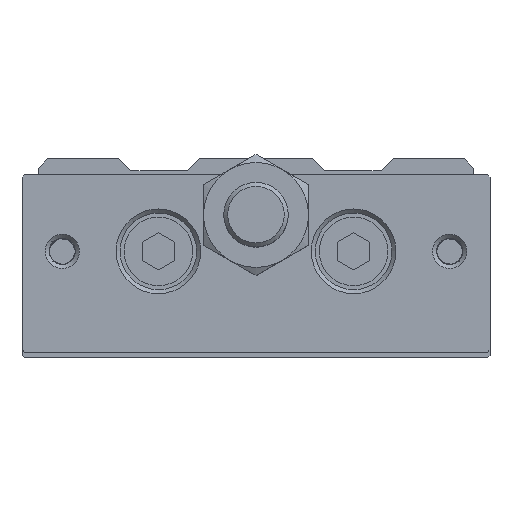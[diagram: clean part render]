
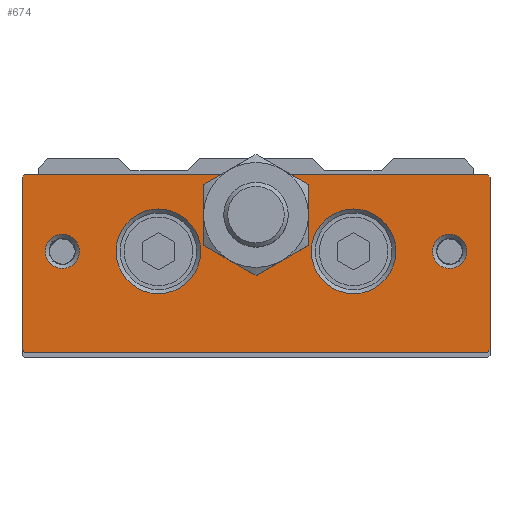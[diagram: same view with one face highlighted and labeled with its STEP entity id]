
A CAD part, top view. The second image highlights one B-rep face of the part: STEP entity #674.
In plain terms, the highlighted planar face has unit normal (0, 0, 1).
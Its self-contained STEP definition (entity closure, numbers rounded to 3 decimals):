
#455=CARTESIAN_POINT('',(-28.7,-13.,218.5));
#456=VERTEX_POINT('',#455);
#463=CARTESIAN_POINT('',(-29.,-12.7,218.5));
#464=VERTEX_POINT('',#463);
#465=CARTESIAN_POINT('',(-28.7,-13.,218.5));
#466=DIRECTION('',(-0.707,0.707,0.0));
#467=VECTOR('',#466,0.424);
#468=LINE('',#465,#467);
#469=EDGE_CURVE('',#456,#464,#468,.T.);
#486=CARTESIAN_POINT('',(-29.,8.7,218.5));
#487=VERTEX_POINT('',#486);
#488=CARTESIAN_POINT('',(-29.,8.7,218.5));
#489=DIRECTION('',(0.0,-1.0,0.0));
#490=VECTOR('',#489,21.4);
#491=LINE('',#488,#490);
#492=EDGE_CURVE('',#487,#464,#491,.T.);
#522=CARTESIAN_POINT('',(0.0,-13.,218.5));
#523=DIRECTION('',(0.0,0.0,1.0));
#524=DIRECTION('',(1.0,0.0,0.0));
#525=AXIS2_PLACEMENT_3D('',#522,#523,#524);
#526=PLANE('',#525);
#527=ORIENTED_EDGE('',*,*,#469,.F.);
#528=CARTESIAN_POINT('',(28.7,-13.,218.5));
#529=VERTEX_POINT('',#528);
#530=CARTESIAN_POINT('',(-28.7,-13.,218.5));
#531=DIRECTION('',(1.0,0.0,0.0));
#532=VECTOR('',#531,57.4);
#533=LINE('',#530,#532);
#534=EDGE_CURVE('',#456,#529,#533,.T.);
#535=ORIENTED_EDGE('',*,*,#534,.T.);
#536=CARTESIAN_POINT('',(29.,-12.7,218.5));
#537=VERTEX_POINT('',#536);
#538=CARTESIAN_POINT('',(29.,-12.7,218.5));
#539=DIRECTION('',(-0.707,-0.707,0.0));
#540=VECTOR('',#539,0.424);
#541=LINE('',#538,#540);
#542=EDGE_CURVE('',#537,#529,#541,.T.);
#543=ORIENTED_EDGE('',*,*,#542,.F.);
#544=CARTESIAN_POINT('',(29.,8.7,218.5));
#545=VERTEX_POINT('',#544);
#546=CARTESIAN_POINT('',(29.,-12.7,218.5));
#547=DIRECTION('',(0.0,1.0,0.0));
#548=VECTOR('',#547,21.4);
#549=LINE('',#546,#548);
#550=EDGE_CURVE('',#537,#545,#549,.T.);
#551=ORIENTED_EDGE('',*,*,#550,.T.);
#552=CARTESIAN_POINT('',(28.7,9.,218.5));
#553=VERTEX_POINT('',#552);
#554=CARTESIAN_POINT('',(28.7,9.,218.5));
#555=DIRECTION('',(0.707,-0.707,0.0));
#556=VECTOR('',#555,0.424);
#557=LINE('',#554,#556);
#558=EDGE_CURVE('',#553,#545,#557,.T.);
#559=ORIENTED_EDGE('',*,*,#558,.F.);
#560=CARTESIAN_POINT('',(4.153,9.,218.5));
#561=VERTEX_POINT('',#560);
#562=CARTESIAN_POINT('',(28.7,9.,218.5));
#563=DIRECTION('',(-1.0,0.0,0.0));
#564=VECTOR('',#563,24.547);
#565=LINE('',#562,#564);
#566=EDGE_CURVE('',#553,#561,#565,.T.);
#567=ORIENTED_EDGE('',*,*,#566,.T.);
#568=CARTESIAN_POINT('',(6.5,4.,218.5));
#569=VERTEX_POINT('',#568);
#570=CARTESIAN_POINT('',(0.0,4.,218.5));
#571=DIRECTION('',(0.0,0.0,1.0));
#572=DIRECTION('',(0.0,1.0,0.0));
#573=AXIS2_PLACEMENT_3D('',#570,#571,#572);
#574=CIRCLE('',#573,6.5);
#575=EDGE_CURVE('',#569,#561,#574,.T.);
#576=ORIENTED_EDGE('',*,*,#575,.F.);
#577=CARTESIAN_POINT('',(3.25,-1.629,218.5));
#578=VERTEX_POINT('',#577);
#579=CARTESIAN_POINT('',(0.0,4.,218.5));
#580=DIRECTION('',(0.0,0.0,1.0));
#581=DIRECTION('',(0.0,1.0,0.0));
#582=AXIS2_PLACEMENT_3D('',#579,#580,#581);
#583=CIRCLE('',#582,6.5);
#584=EDGE_CURVE('',#578,#569,#583,.T.);
#585=ORIENTED_EDGE('',*,*,#584,.F.);
#586=CARTESIAN_POINT('',(-3.25,-1.629,218.5));
#587=VERTEX_POINT('',#586);
#588=CARTESIAN_POINT('',(0.0,4.,218.5));
#589=DIRECTION('',(0.0,0.0,1.0));
#590=DIRECTION('',(0.0,1.0,0.0));
#591=AXIS2_PLACEMENT_3D('',#588,#589,#590);
#592=CIRCLE('',#591,6.5);
#593=EDGE_CURVE('',#587,#578,#592,.T.);
#594=ORIENTED_EDGE('',*,*,#593,.F.);
#595=CARTESIAN_POINT('',(-6.5,4.,218.5));
#596=VERTEX_POINT('',#595);
#597=CARTESIAN_POINT('',(0.0,4.,218.5));
#598=DIRECTION('',(0.0,0.0,1.0));
#599=DIRECTION('',(0.0,1.0,0.0));
#600=AXIS2_PLACEMENT_3D('',#597,#598,#599);
#601=CIRCLE('',#600,6.5);
#602=EDGE_CURVE('',#596,#587,#601,.T.);
#603=ORIENTED_EDGE('',*,*,#602,.F.);
#604=CARTESIAN_POINT('',(-4.153,9.,218.5));
#605=VERTEX_POINT('',#604);
#606=CARTESIAN_POINT('',(0.0,4.,218.5));
#607=DIRECTION('',(0.0,0.0,1.0));
#608=DIRECTION('',(0.0,1.0,0.0));
#609=AXIS2_PLACEMENT_3D('',#606,#607,#608);
#610=CIRCLE('',#609,6.5);
#611=EDGE_CURVE('',#605,#596,#610,.T.);
#612=ORIENTED_EDGE('',*,*,#611,.F.);
#613=CARTESIAN_POINT('',(-28.7,9.,218.5));
#614=VERTEX_POINT('',#613);
#615=CARTESIAN_POINT('',(-4.153,9.,218.5));
#616=DIRECTION('',(-1.0,0.0,0.0));
#617=VECTOR('',#616,24.547);
#618=LINE('',#615,#617);
#619=EDGE_CURVE('',#605,#614,#618,.T.);
#620=ORIENTED_EDGE('',*,*,#619,.T.);
#621=CARTESIAN_POINT('',(-29.,8.7,218.5));
#622=DIRECTION('',(0.707,0.707,0.0));
#623=VECTOR('',#622,0.424);
#624=LINE('',#621,#623);
#625=EDGE_CURVE('',#487,#614,#624,.T.);
#626=ORIENTED_EDGE('',*,*,#625,.F.);
#627=ORIENTED_EDGE('',*,*,#492,.T.);
#628=EDGE_LOOP('',(#527,#535,#543,#551,#559,#567,#576,#585,#594,#603,#612,#620,#626,#627));
#629=FACE_OUTER_BOUND('',#628,.T.);
#630=CARTESIAN_POINT('',(-21.879,-0.5,218.5));
#631=VERTEX_POINT('',#630);
#632=CARTESIAN_POINT('',(-24.,-0.5,218.5));
#633=DIRECTION('',(0.0,0.0,1.0));
#634=DIRECTION('',(-1.0,0.0,0.0));
#635=AXIS2_PLACEMENT_3D('',#632,#633,#634);
#636=CIRCLE('',#635,2.121);
#637=EDGE_CURVE('',#631,#631,#636,.T.);
#638=ORIENTED_EDGE('',*,*,#637,.F.);
#639=EDGE_LOOP('',(#638));
#640=FACE_BOUND('',#639,.T.);
#641=CARTESIAN_POINT('',(26.121,-0.5,218.5));
#642=VERTEX_POINT('',#641);
#643=CARTESIAN_POINT('',(24.,-0.5,218.5));
#644=DIRECTION('',(0.0,0.0,1.0));
#645=DIRECTION('',(-1.0,0.0,0.0));
#646=AXIS2_PLACEMENT_3D('',#643,#644,#645);
#647=CIRCLE('',#646,2.121);
#648=EDGE_CURVE('',#642,#642,#647,.T.);
#649=ORIENTED_EDGE('',*,*,#648,.F.);
#650=EDGE_LOOP('',(#649));
#651=FACE_BOUND('',#650,.T.);
#652=CARTESIAN_POINT('',(-6.85,-0.5,218.5));
#653=VERTEX_POINT('',#652);
#654=CARTESIAN_POINT('',(-12.1,-0.5,218.5));
#655=DIRECTION('',(0.0,0.0,1.0));
#656=DIRECTION('',(-1.0,0.0,0.0));
#657=AXIS2_PLACEMENT_3D('',#654,#655,#656);
#658=CIRCLE('',#657,5.25);
#659=EDGE_CURVE('',#653,#653,#658,.T.);
#660=ORIENTED_EDGE('',*,*,#659,.F.);
#661=EDGE_LOOP('',(#660));
#662=FACE_BOUND('',#661,.T.);
#663=CARTESIAN_POINT('',(17.35,-0.5,218.5));
#664=VERTEX_POINT('',#663);
#665=CARTESIAN_POINT('',(12.1,-0.5,218.5));
#666=DIRECTION('',(0.0,0.0,1.0));
#667=DIRECTION('',(-1.0,0.0,0.0));
#668=AXIS2_PLACEMENT_3D('',#665,#666,#667);
#669=CIRCLE('',#668,5.25);
#670=EDGE_CURVE('',#664,#664,#669,.T.);
#671=ORIENTED_EDGE('',*,*,#670,.F.);
#672=EDGE_LOOP('',(#671));
#673=FACE_BOUND('',#672,.T.);
#674=ADVANCED_FACE('',(#629,#640,#651,#662,#673),#526,.T.);
